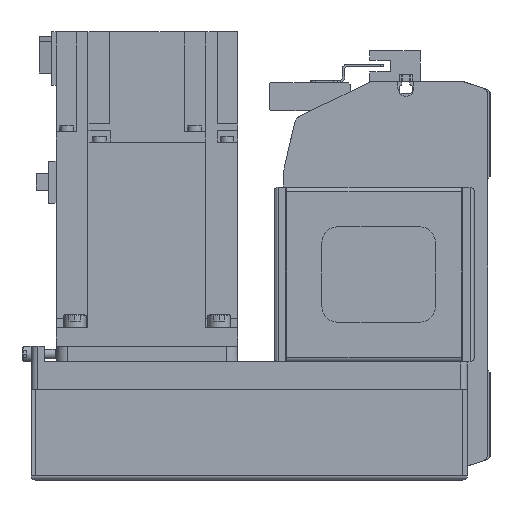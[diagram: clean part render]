
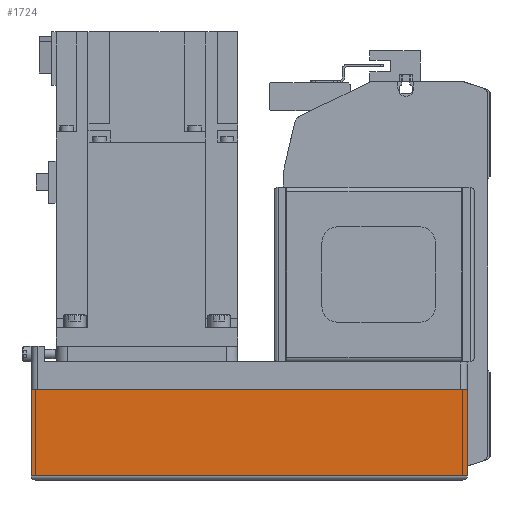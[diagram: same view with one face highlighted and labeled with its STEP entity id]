
A CAD part, left-side view. The second image highlights one B-rep face of the part: STEP entity #1724.
In plain terms, the highlighted planar face has unit normal (-1, 0, 0) as drawn and (0, -1, 0) by its records, which use the part's own axes.
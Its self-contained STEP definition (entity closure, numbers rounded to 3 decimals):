
#1724 = ADVANCED_FACE( '', ( #4134 ), #4135, .T. );
#4134 = FACE_OUTER_BOUND( '', #7380, .T. );
#4135 = PLANE( '', #7381 );
#7380 = EDGE_LOOP( '', ( #12328, #12329, #12330, #12331 ) );
#7381 = AXIS2_PLACEMENT_3D( '', #12332, #12333, #12334 );
#12328 = ORIENTED_EDGE( '', *, *, #20020, .F. );
#12329 = ORIENTED_EDGE( '', *, *, #20109, .F. );
#12330 = ORIENTED_EDGE( '', *, *, #20110, .T. );
#12331 = ORIENTED_EDGE( '', *, *, #18970, .T. );
#12332 = CARTESIAN_POINT( '', ( -192., -40., -12.1 ) );
#12333 = DIRECTION( '', ( 0., -1., 0. ) );
#12334 = DIRECTION( '', ( 0., 0., -1. ) );
#18970 = EDGE_CURVE( '', #22754, #22758, #22760, .T. );
#20020 = EDGE_CURVE( '', #24522, #22758, #24523, .T. );
#20109 = EDGE_CURVE( '', #24661, #24522, #24662, .T. );
#20110 = EDGE_CURVE( '', #24661, #22754, #24663, .T. );
#22754 = VERTEX_POINT( '', #28236 );
#22758 = VERTEX_POINT( '', #28241 );
#22760 = LINE( '', #28243, #28244 );
#24522 = VERTEX_POINT( '', #30853 );
#24523 = LINE( '', #30854, #30855 );
#24661 = VERTEX_POINT( '', #31044 );
#24662 = LINE( '', #31045, #31046 );
#24663 = LINE( '', #31047, #31048 );
#28236 = CARTESIAN_POINT( '', ( -192., -40., -50. ) );
#28241 = CARTESIAN_POINT( '', ( 0., -40., -50. ) );
#28243 = CARTESIAN_POINT( '', ( -192., -40., -50. ) );
#28244 = VECTOR( '', #35152, 1000. );
#30853 = CARTESIAN_POINT( '', ( 0., -40., -12.1 ) );
#30854 = CARTESIAN_POINT( '', ( 0., -40., -12.1 ) );
#30855 = VECTOR( '', #36568, 1000. );
#31044 = CARTESIAN_POINT( '', ( -192., -40., -12.1 ) );
#31045 = CARTESIAN_POINT( '', ( -192., -40., -12.1 ) );
#31046 = VECTOR( '', #36678, 1000. );
#31047 = CARTESIAN_POINT( '', ( -192., -40., -12.1 ) );
#31048 = VECTOR( '', #36679, 1000. );
#35152 = DIRECTION( '', ( 1., 0., 0. ) );
#36568 = DIRECTION( '', ( 0., 0., -1. ) );
#36678 = DIRECTION( '', ( 1., 0., 0. ) );
#36679 = DIRECTION( '', ( 0., 0., -1. ) );
